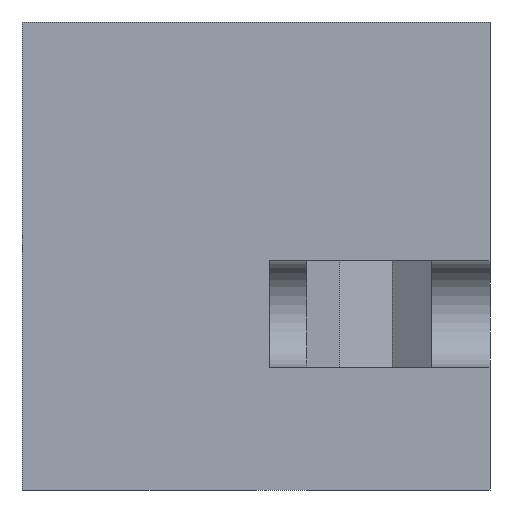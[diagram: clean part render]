
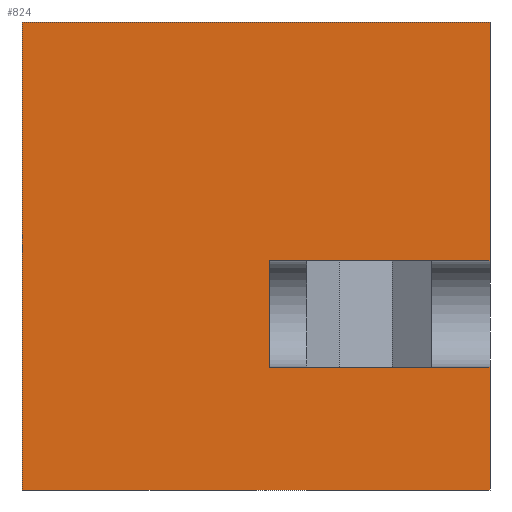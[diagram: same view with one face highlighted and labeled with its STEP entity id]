
A CAD part, left-side view. The second image highlights one B-rep face of the part: STEP entity #824.
In plain terms, the highlighted planar face has unit normal (-1, 0, 0).
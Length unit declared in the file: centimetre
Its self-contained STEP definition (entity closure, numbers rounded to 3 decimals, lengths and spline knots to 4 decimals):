
#3 = CARTESIAN_POINT ( 'NONE',  ( 0., 0., 1000. ) ) ;
#13 = DIRECTION ( 'NONE',  ( 0., 0., -1. ) ) ;
#19 = AXIS2_PLACEMENT_3D ( 'NONE', #73, #387, #381 ) ;
#45 = DIRECTION ( 'NONE',  ( 0., -1., 0. ) ) ;
#47 = ORIENTED_EDGE ( 'NONE', *, *, #329, .F. ) ;
#52 = ORIENTED_EDGE ( 'NONE', *, *, #732, .F. ) ;
#73 = CARTESIAN_POINT ( 'NONE',  ( 0., 1000., 1000. ) ) ;
#96 = EDGE_CURVE ( 'NONE', #609, #157, #626, .T. ) ;
#111 = DIRECTION ( 'NONE',  ( 0., 0., -1. ) ) ;
#124 = ORIENTED_EDGE ( 'NONE', *, *, #931, .T. ) ;
#157 = VERTEX_POINT ( 'NONE', #641 ) ;
#160 = CARTESIAN_POINT ( 'NONE',  ( 0., 1000., 1000. ) ) ;
#174 = DIRECTION ( 'NONE',  ( 0., -1., 0. ) ) ;
#183 = CARTESIAN_POINT ( 'NONE',  ( 0., 471.6596, 262.5312 ) ) ;
#207 = VERTEX_POINT ( 'NONE', #727 ) ;
#208 = VECTOR ( 'NONE', #970, 100. ) ;
#236 = EDGE_LOOP ( 'NONE', ( #52, #830, #47, #560, #124, #367, #977, #760 ) ) ;
#270 = CARTESIAN_POINT ( 'NONE',  ( 0., 471.6596, 1000. ) ) ;
#281 = CARTESIAN_POINT ( 'NONE',  ( 0., 471.6596, 489.9619 ) ) ;
#293 = VERTEX_POINT ( 'NONE', #389 ) ;
#304 = CARTESIAN_POINT ( 'NONE',  ( 0., 0., 1000. ) ) ;
#329 = EDGE_CURVE ( 'NONE', #434, #594, #617, .T. ) ;
#365 = DIRECTION ( 'NONE',  ( 0., 0., -1. ) ) ;
#367 = ORIENTED_EDGE ( 'NONE', *, *, #508, .T. ) ;
#381 = DIRECTION ( 'NONE',  ( 0., 0., -1. ) ) ;
#387 = DIRECTION ( 'NONE',  ( 1., 0., 0. ) ) ;
#389 = CARTESIAN_POINT ( 'NONE',  ( 0., 1000., 0. ) ) ;
#434 = VERTEX_POINT ( 'NONE', #3 ) ;
#436 = CARTESIAN_POINT ( 'NONE',  ( 0., 471.6596, 262.5312 ) ) ;
#461 = VERTEX_POINT ( 'NONE', #926 ) ;
#475 = DIRECTION ( 'NONE',  ( 0., -1., 0. ) ) ;
#505 = LINE ( 'NONE', #962, #845 ) ;
#508 = EDGE_CURVE ( 'NONE', #293, #707, #884, .T. ) ;
#528 = VECTOR ( 'NONE', #365, 100. ) ;
#545 = DIRECTION ( 'NONE',  ( 0., 0., -1. ) ) ;
#552 = LINE ( 'NONE', #160, #208 ) ;
#560 = ORIENTED_EDGE ( 'NONE', *, *, #846, .F. ) ;
#578 = CARTESIAN_POINT ( 'NONE',  ( 0., 0., 489.9619 ) ) ;
#591 = CARTESIAN_POINT ( 'NONE',  ( 0., 0., 0. ) ) ;
#594 = VERTEX_POINT ( 'NONE', #578 ) ;
#609 = VERTEX_POINT ( 'NONE', #183 ) ;
#617 = LINE ( 'NONE', #304, #779 ) ;
#626 = LINE ( 'NONE', #436, #786 ) ;
#641 = CARTESIAN_POINT ( 'NONE',  ( 0., 0., 262.5312 ) ) ;
#657 = LINE ( 'NONE', #270, #528 ) ;
#674 = EDGE_CURVE ( 'NONE', #157, #707, #505, .T. ) ;
#683 = EDGE_CURVE ( 'NONE', #207, #594, #735, .T. ) ;
#694 = VECTOR ( 'NONE', #13, 100. ) ;
#707 = VERTEX_POINT ( 'NONE', #591 ) ;
#727 = CARTESIAN_POINT ( 'NONE',  ( 0., 471.6596, 489.9619 ) ) ;
#730 = VECTOR ( 'NONE', #174, 100. ) ;
#732 = EDGE_CURVE ( 'NONE', #207, #609, #657, .T. ) ;
#735 = LINE ( 'NONE', #281, #945 ) ;
#760 = ORIENTED_EDGE ( 'NONE', *, *, #96, .F. ) ;
#769 = PLANE ( 'NONE',  #19 ) ;
#779 = VECTOR ( 'NONE', #545, 100. ) ;
#786 = VECTOR ( 'NONE', #475, 100. ) ;
#805 = CARTESIAN_POINT ( 'NONE',  ( 0., 1000., 1000. ) ) ;
#824 = ADVANCED_FACE ( 'NONE', ( #838 ), #769, .F. ) ;
#830 = ORIENTED_EDGE ( 'NONE', *, *, #683, .T. ) ;
#838 = FACE_OUTER_BOUND ( 'NONE', #236, .T. ) ;
#845 = VECTOR ( 'NONE', #111, 100. ) ;
#846 = EDGE_CURVE ( 'NONE', #461, #434, #552, .T. ) ;
#868 = LINE ( 'NONE', #805, #694 ) ;
#884 = LINE ( 'NONE', #934, #730 ) ;
#926 = CARTESIAN_POINT ( 'NONE',  ( 0., 1000., 1000. ) ) ;
#931 = EDGE_CURVE ( 'NONE', #461, #293, #868, .T. ) ;
#934 = CARTESIAN_POINT ( 'NONE',  ( 0., 1000., 0. ) ) ;
#945 = VECTOR ( 'NONE', #45, 100. ) ;
#962 = CARTESIAN_POINT ( 'NONE',  ( 0., 0., 1000. ) ) ;
#970 = DIRECTION ( 'NONE',  ( 0., -1., 0. ) ) ;
#977 = ORIENTED_EDGE ( 'NONE', *, *, #674, .F. ) ;
